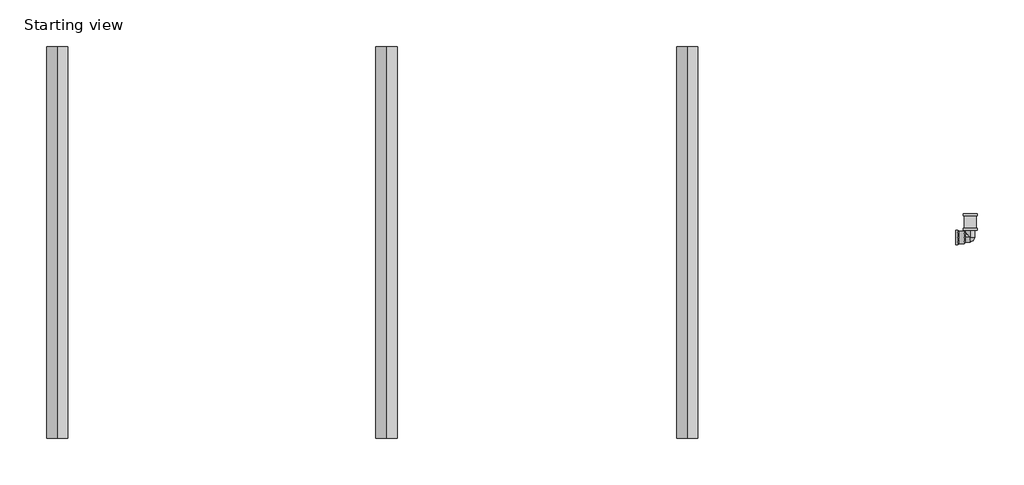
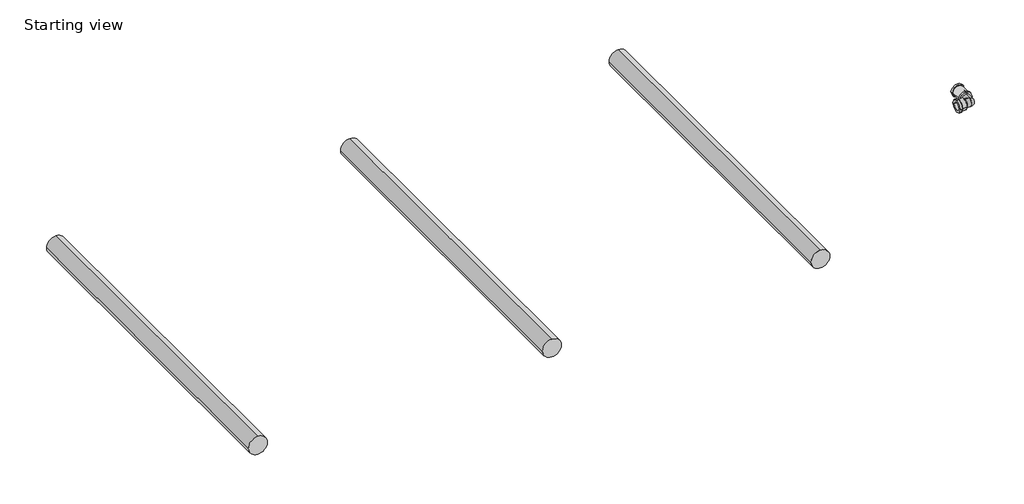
# One storey, incomplete: 3 pipe segments, 2 pipe fittings.
"""IFC4 building model written with IfcOpenShell, lengths in millimetres."""

from ifc_helpers import new_model, si_unit, point, frame, frame_2d, origin, place, context, project, spatial, circle_curve, trimmed, segment, composite_curve, outline, extrude, transform, mapped, element, save
from components import var_d9dd8e61, var_c5e0cd6b

model = new_model("IFC4")

# Units and contexts
model_context = context("Model", 3, world=origin())
ifc_project = project(units=[si_unit("LENGTHUNIT", "METRE", prefix="MILLI")], contexts=[model_context])

# Site, building, storey
site = spatial("IfcSite", under=ifc_project)
building = spatial("IfcBuilding", under=site)
storey = spatial("IfcBuildingStorey", under=building, Name="Starting view", Elevation=0.0)

# Pipe fittings
placement = place(None, origin())
var_shape = var_d9dd8e61(model_context)
element("IfcPipeFitting", 1, ObjectType="PlastigamaWavin_Unionesdetubería_LineaDoradaZNoUsarUnión : Var.", at=placement, inside=storey, context=model_context, shape_type="MappedRepresentation", body=[
    mapped(var_shape, transform((4164.9375623, 7403.9203881, 0.0), x_axis=(0.0, 1.0, 0.0), y_axis=(-1.0, 0.0, 0.0), z_axis=(0.0, 0.0, 1.0))),
])
var_2_shape = var_c5e0cd6b(model_context)
element("IfcPipeFitting", 2, ObjectType="PlastigamaWavin_Unionesdetubería_LineaDoradaCodoCachimba1/2\"-3/4\" : Var.", at=placement, inside=storey, context=model_context, shape_type="MappedRepresentation", body=[
    mapped(var_2_shape, transform((4164.9375623, 7359.4203881, 0.0), x_axis=(1.0, 0.0, 0.0), y_axis=(0.0, 1.0, 0.0), z_axis=(0.0, 0.0, 1.0))),
])

# Pipe segments
element("IfcPipeSegment", 3, ObjectType="Plastigama Línea Dorada PP Cuatritubo", at=placement, inside=storey, context=model_context, shape_type="SweptSolid", body=[
    extrude(outline(composite_curve([segment(trimmed(circle_curve(frame_2d((100.0, 2487.998611)), 30.3), [point((100.0, 2457.698611))], [point((69.7, 2487.998611))], False, "CARTESIAN"), True, "CONTINUOUS"), segment(trimmed(circle_curve(frame_2d((100.0, 2487.998611)), 30.3), [point((69.7, 2487.998611))], [point((100.0, 2518.298611))], False, "CARTESIAN"), True, "CONTINUOUS"), segment(trimmed(circle_curve(frame_2d((100.0, 2487.998611)), 30.3), [point((100.0, 2518.298611))], [point((130.3, 2487.998611))], False, "CARTESIAN"), True, "CONTINUOUS"), segment(trimmed(circle_curve(frame_2d((100.0, 2487.998611)), 30.3), [point((130.3, 2487.998611))], [point((100.0, 2457.698611))], False, "CARTESIAN"), True, "CONTINUOUS")], self_intersect=False)), frame((0.0, 6782.8370988, 0.0), z_axis=(0.0, 1.0, 0.0), x_axis=(0.0, 0.0, 1.0)), (0.0, 0.0, 1.0), 1124.84),
])
element("IfcPipeSegment", 4, ObjectType="Plastigama Línea Dorada PP Monocapa", at=placement, inside=storey, context=model_context, shape_type="SweptSolid", body=[
    extrude(outline(composite_curve([segment(trimmed(circle_curve(frame_2d((100.0, 1542.0292477)), 30.3), [point((100.0, 1511.7292477))], [point((69.7, 1542.0292477))], False, "CARTESIAN"), True, "CONTINUOUS"), segment(trimmed(circle_curve(frame_2d((100.0, 1542.0292477)), 30.3), [point((69.7, 1542.0292477))], [point((100.0, 1572.3292477))], False, "CARTESIAN"), True, "CONTINUOUS"), segment(trimmed(circle_curve(frame_2d((100.0, 1542.0292477)), 30.3), [point((100.0, 1572.3292477))], [point((130.3, 1542.0292477))], False, "CARTESIAN"), True, "CONTINUOUS"), segment(trimmed(circle_curve(frame_2d((100.0, 1542.0292477)), 30.3), [point((130.3, 1542.0292477))], [point((100.0, 1511.7292477))], False, "CARTESIAN"), True, "CONTINUOUS")], self_intersect=False)), frame((0.0, 6782.8370988, 0.0), z_axis=(0.0, 1.0, 0.0), x_axis=(0.0, 0.0, 1.0)), (0.0, 0.0, 1.0), 1124.84),
])
element("IfcPipeSegment", 5, ObjectType="Plastigama PVC Presión AF Roscable", at=placement, inside=storey, context=model_context, shape_type="SweptSolid", body=[
    extrude(outline(composite_curve([segment(trimmed(circle_curve(frame_2d((100.0, 3351.9197021)), 30.16), [point((100.0, 3321.7597021))], [point((69.84, 3351.9197021))], False, "CARTESIAN"), True, "CONTINUOUS"), segment(trimmed(circle_curve(frame_2d((100.0, 3351.9197021)), 30.16), [point((69.84, 3351.9197021))], [point((100.0, 3382.0797021))], False, "CARTESIAN"), True, "CONTINUOUS"), segment(trimmed(circle_curve(frame_2d((100.0, 3351.9197021)), 30.16), [point((100.0, 3382.0797021))], [point((130.16, 3351.9197021))], False, "CARTESIAN"), True, "CONTINUOUS"), segment(trimmed(circle_curve(frame_2d((100.0, 3351.9197021)), 30.16), [point((130.16, 3351.9197021))], [point((100.0, 3321.7597021))], False, "CARTESIAN"), True, "CONTINUOUS")], self_intersect=False)), frame((0.0, 6782.8370988, 0.0), z_axis=(0.0, 1.0, 0.0), x_axis=(0.0, 0.0, 1.0)), (0.0, 0.0, 1.0), 1124.84),
])

save(model, "model.ifc")
